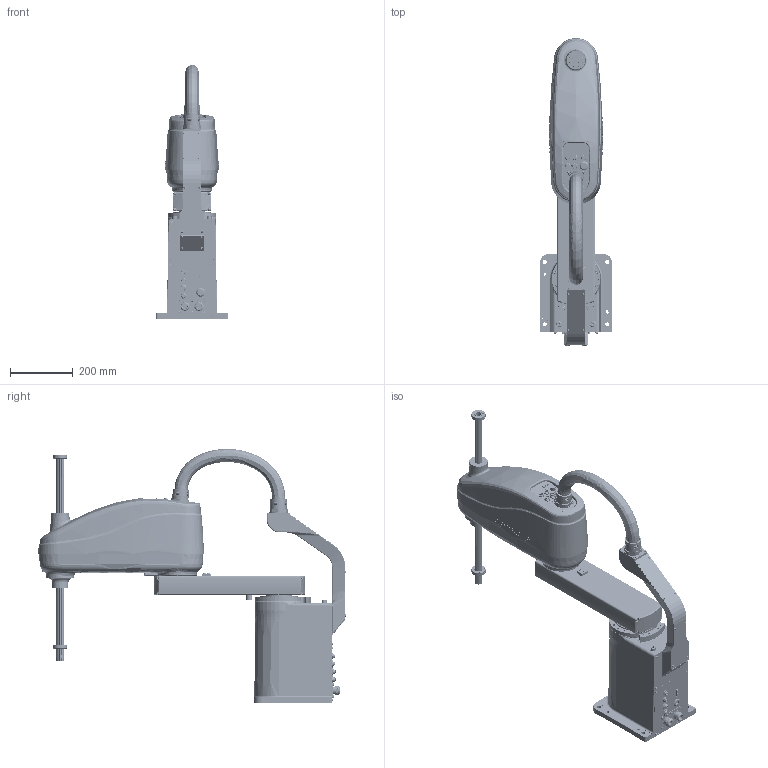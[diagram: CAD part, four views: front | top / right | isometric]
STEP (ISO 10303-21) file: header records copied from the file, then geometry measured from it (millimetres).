
FILE_DESCRIPTION (( 'STEP AP214' ), '1' );
FILE_NAME ('CRP-RS07-10Z30 ×°ÅäÌå1.STEP', '2023-07-03T02:38:04', ( '' ), ( '' ), 'SwSTEP 2.0', 'SolidWorks 2016', '' );
FILE_SCHEMA (( 'AUTOMOTIVE_DESIGN' ));
Length unit declared in the file: millimetre
Products named in the file (7): Harness_1-CRP-RS07-10Z30 蚾饜极1; RS0810-01 J1; RS0810-03 J3; RS0710-02 J2; 萇擢^Harness_1-CRP-RS07-10Z30 蚾饜极1; CRP-RS07-10Z30 蚾饜极1; RS0810-04 J4
Assembly tree (6 placements, depth 3):
  CRP-RS07-10Z30 蚾饜极1
    RS0810-01 J1
    RS0710-02 J2
    RS0810-03 J3
    RS0810-04 J4
    Harness_1-CRP-RS07-10Z30 蚾饜极1
      萇擢^Harness_1-CRP-RS07-10Z30 蚾饜极1
Bounding box: 230 x 984.91 x 813.17 mm (x, y, z)
Volume: 33525491 mm3; surface area: 1478927.4 mm2
Topology: 5 solids, 126 shells, 6010 faces, 14872 edges, 9236 vertices
Faces by surface type: plane 2588, cylinder 1692, cone 780, bspline 679, torus 251, sphere 20
Entity records: 254705 total; most frequent: CARTESIAN_POINT 94416, ORIENTED_EDGE 29180, DIRECTION 28760, EDGE_CURVE 14590, AXIS2_PLACEMENT_3D 11103, VERTEX_POINT 9212, EDGE_LOOP 6798, LINE 6554
